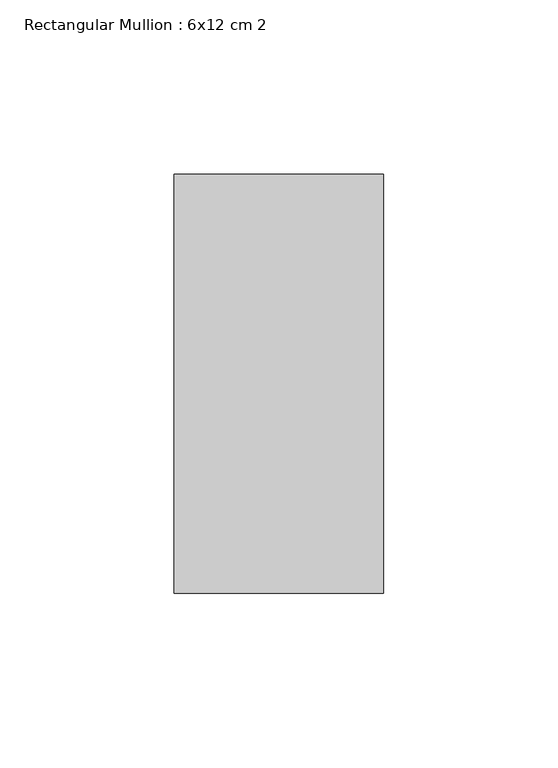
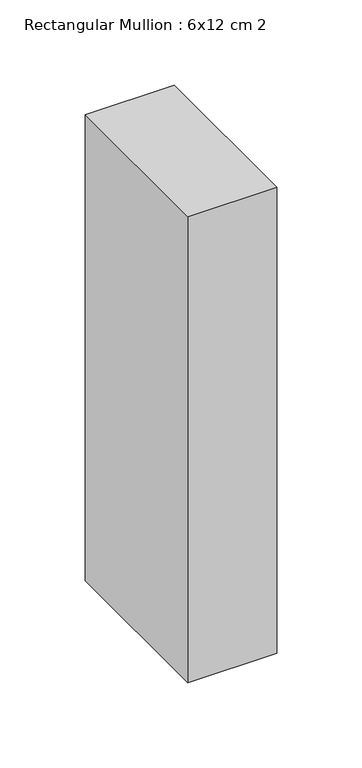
"""IFC4 building model written with IfcOpenShell, lengths in millimetres: member geometry, Rectangular Mullion : 6x12 cm 2."""

from ifc_helpers import new_model, si_unit, frame, origin, place, context, project, spatial, polyline, outline, extrude, source, transform, mapped, element, save


def rectangular_mullion_6x12_cm_2_7af92f25(model_context):
    return source(origin(), model_context, "Body", "SweptSolid", [
        extrude(outline(polyline([(0.0, 205.0), (0.0, 85.0), (-60.0, 85.0), (-60.0, 205.0), (0.0, 205.0)])), frame((0.0, 0.0, -333.2384287), z_axis=(0.0, 0.0, 1.0), x_axis=(1.0, 0.0, 0.0)), (0.0, 0.0, 1.0), 333.2384287),
    ])


if __name__ == "__main__":
    model = new_model("IFC4")
    model_context = context("Model", 3, world=origin())
    ifc_project = project(units=[si_unit("LENGTHUNIT", "METRE", prefix="MILLI")], contexts=[model_context])
    site = spatial("IfcSite", under=ifc_project)
    building = spatial("IfcBuilding", under=site)
    placement = place(None, origin())
    rectangular_mullion_6x12_cm_2_shape = rectangular_mullion_6x12_cm_2_7af92f25(model_context)
    element("IfcMember", 1, ObjectType="Rectangular Mullion : 6x12 cm 2", at=placement, inside=building, context=model_context, shape_type="MappedRepresentation", body=[
        mapped(rectangular_mullion_6x12_cm_2_shape, transform((0.0, 0.0, 0.0), x_axis=(1.0, 0.0, 0.0), y_axis=(0.0, 1.0, 0.0), z_axis=(0.0, 0.0, 1.0))),
    ])
    save(model, "model.ifc")
